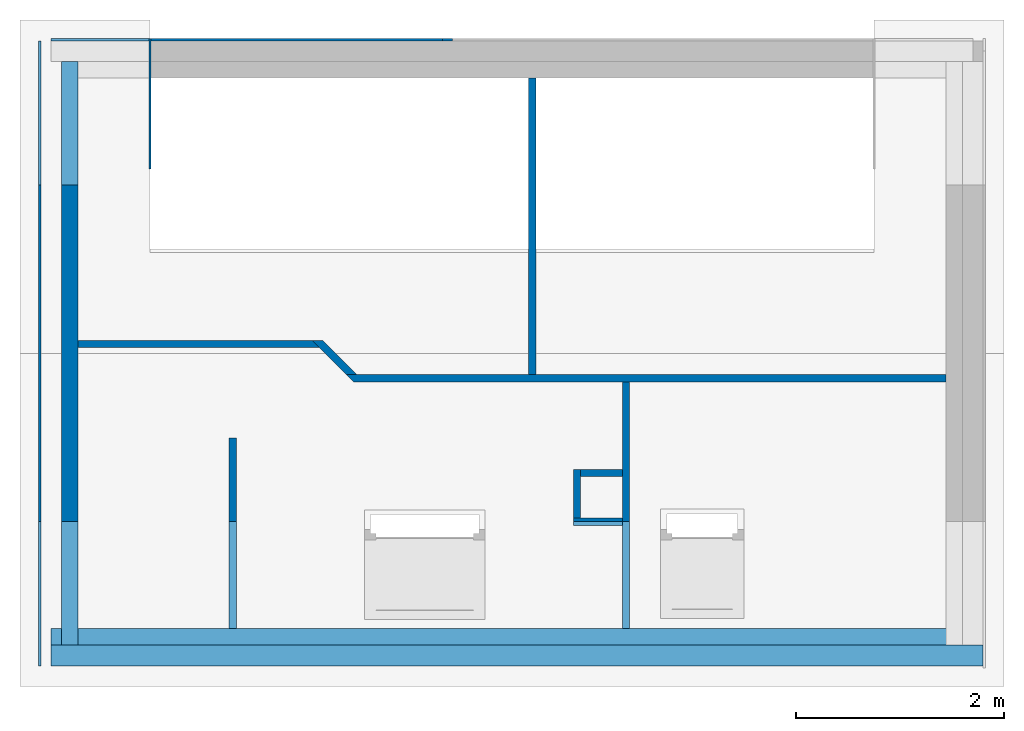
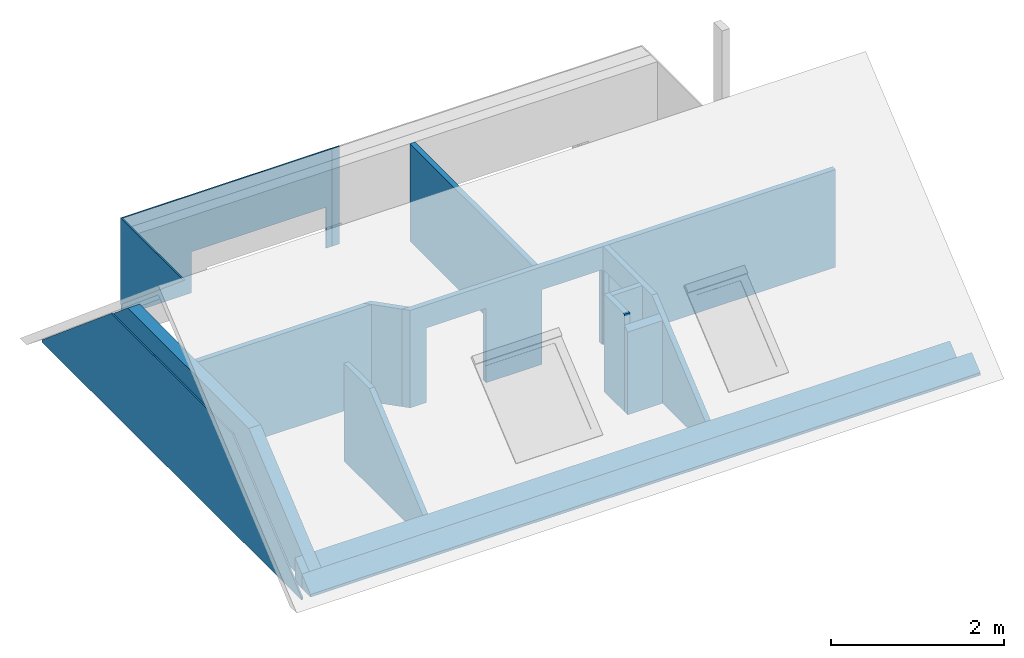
# One storey, part 1 of 5: 16 walls, 7 openings.
"""IFC2X3 building model written with IfcOpenShell, lengths in centimetres."""

from ifc_helpers import new_model, entity, si_unit, converted_unit, derived_unit, direction, frame, frame_2d, origin, place, context, subcontext, project, spatial, polyline, rectangle, outline, extrude, clip, halfspace, bounded_halfspace, faceted_brep, material, layer, layer_set, layer_usage, type_object, element, save


model = new_model("IFC2X3")

# Units and contexts
model_context = context("Model", 3, precision=0.001, world=origin(), true_north=direction((6.12303176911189e-17, 1.0)))
body_context = subcontext(model_context, "Body", "Model", "MODEL_VIEW")
ifc_project = project(units=[si_unit("LENGTHUNIT", "METRE", prefix="CENTI"), si_unit("AREAUNIT", "SQUARE_METRE"), si_unit("VOLUMEUNIT", "CUBIC_METRE"), converted_unit("PLANEANGLEUNIT", "DEGREE", entity("IfcRatioMeasure", 0.0174532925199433), si_unit("PLANEANGLEUNIT", "RADIAN"), dimensions=[0, 0, 0, 0, 0, 0, 0]), si_unit("MASSUNIT", "GRAM", prefix="KILO"), derived_unit("MASSDENSITYUNIT", [(si_unit("MASSUNIT", "GRAM", prefix="KILO"), 1), (si_unit("LENGTHUNIT", "METRE"), -3)]), derived_unit("MOMENTOFINERTIAUNIT", [(si_unit("LENGTHUNIT", "METRE"), 4)]), si_unit("TIMEUNIT", "SECOND"), si_unit("FREQUENCYUNIT", "HERTZ"), si_unit("THERMODYNAMICTEMPERATUREUNIT", "DEGREE_CELSIUS"), derived_unit("THERMALTRANSMITTANCEUNIT", [(si_unit("MASSUNIT", "GRAM", prefix="KILO"), 1), (si_unit("THERMODYNAMICTEMPERATUREUNIT", "KELVIN"), -1), (si_unit("TIMEUNIT", "SECOND"), -3)]), derived_unit("VOLUMETRICFLOWRATEUNIT", [(si_unit("LENGTHUNIT", "METRE"), 3), (si_unit("TIMEUNIT", "SECOND"), -1)]), si_unit("ELECTRICCURRENTUNIT", "AMPERE"), si_unit("ELECTRICVOLTAGEUNIT", "VOLT"), si_unit("POWERUNIT", "WATT"), si_unit("FORCEUNIT", "NEWTON", prefix="KILO"), si_unit("ILLUMINANCEUNIT", "LUX"), si_unit("LUMINOUSFLUXUNIT", "LUMEN"), si_unit("LUMINOUSINTENSITYUNIT", "CANDELA"), derived_unit("USERDEFINED", [(si_unit("MASSUNIT", "GRAM", prefix="KILO"), -1), (si_unit("LENGTHUNIT", "METRE"), -2), (si_unit("TIMEUNIT", "SECOND"), 3), (si_unit("LUMINOUSFLUXUNIT", "LUMEN"), 1)]), derived_unit("LINEARVELOCITYUNIT", [(si_unit("LENGTHUNIT", "METRE"), 1), (si_unit("TIMEUNIT", "SECOND"), -1)]), si_unit("PRESSUREUNIT", "PASCAL"), derived_unit("USERDEFINED", [(si_unit("LENGTHUNIT", "METRE"), -2), (si_unit("MASSUNIT", "GRAM", prefix="KILO"), 1), (si_unit("TIMEUNIT", "SECOND"), -2)]), derived_unit("LINEARFORCEUNIT", [(si_unit("MASSUNIT", "GRAM", prefix="KILO"), 1), (si_unit("LENGTHUNIT", "METRE"), 1), (si_unit("TIMEUNIT", "SECOND"), -2), (si_unit("LENGTHUNIT", "METRE"), -1)]), derived_unit("PLANARFORCEUNIT", [(si_unit("MASSUNIT", "GRAM", prefix="KILO"), 1), (si_unit("LENGTHUNIT", "METRE"), 1), (si_unit("TIMEUNIT", "SECOND"), -2), (si_unit("LENGTHUNIT", "METRE"), -2)])], contexts=[model_context])

# Site, building, storey
site_placement = place(None, origin())
site = spatial("IfcSite", under=ifc_project, at=site_placement, Name="Surface", CompositionType="ELEMENT")
building_placement = place(site_placement, origin())
building = spatial("IfcBuilding", under=site, at=building_placement, CompositionType="ELEMENT")
storey_placement = place(building_placement, frame((0.0, 0.0, 365.0)))
storey = spatial("IfcBuildingStorey", under=building, at=storey_placement, Name="3.65_Sablière", CompositionType="ELEMENT", Elevation=365.0)

# Wall
ifc_material_1 = material(Name="Maçonnerie - Béton")
ifc_layer_1 = layer(ifc_material_1, 20.0)
ifc_layer_set_1 = layer_set([ifc_layer_1], Name="Mur de base:Mur 20")
ifc_layer_usage_1 = layer_usage(ifc_layer_set_1, "AXIS2", "NEGATIVE", 10.0)
wall_type_1 = type_object("IfcWallType", Name="Mur de base:Mur 20", PredefinedType="STANDARD", material=ifc_layer_set_1)
wall_1_placement = place(storey_placement, frame((-882.177260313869, 130.99231712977, 0.0), z_axis=(0.0, 0.0, 1.0), x_axis=(-1.0, 0.0, 0.0)))
element("IfcWallStandardCase", 1, at=wall_1_placement, inside=storey, type_object=wall_type_1, material=ifc_layer_usage_1, Name="Mur de base:Mur 20", ObjectType="Mur de base:Mur 20", context=body_context, shape_type="Clipping", body=[
    clip(clip(extrude(rectangle(XDim=896.000000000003, YDim=20.0, at=frame_2d((448.000000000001, 7.99360577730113e-15), x_axis=(-1.0, 0.0))), origin(), (0.0, 0.0, 1.0), 20.5139852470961), bounded_halfspace(frame((0.0, -10.0, 20.5139852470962), z_axis=(0.0, 0.642787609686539, 0.766044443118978), x_axis=(-1.0, 0.0, 0.0)), False, frame((0.0, -10.0, 20.5139852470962)), polyline([(0.0, 0.0), (20.0, 0.0), (896.0, 0.0), (896.0, 20.0), (788.887301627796, 20.0), (756.887301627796, 20.0), (0.0, 20.0), (0.0, 0.0)]))), halfspace(frame((0.0, 0.0, -108.0)), True)),
])

# Wall, openings
ifc_material_2 = material(Name="Maçonnerie - Enduit")
ifc_layer_2 = layer(ifc_material_2, 2.0)
ifc_layer_set_2 = layer_set([ifc_layer_2], Name="Mur de base:Enduit 2")
ifc_layer_usage_2 = layer_usage(ifc_layer_set_2, "AXIS2", "POSITIVE", -1.0)
wall_type_2 = type_object("IfcWallType", Name="Mur de base:Enduit 2", PredefinedType="STANDARD", material=ifc_layer_set_2)
wall_2_placement = place(storey_placement, frame((-1392.17726031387, 722.992317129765, 0.0), z_axis=(0.0, 0.0, 1.0), x_axis=(-1.0, 0.0, 0.0)))
wall_2 = element("IfcWallStandardCase", 2, at=wall_2_placement, inside=storey, type_object=wall_type_2, material=ifc_layer_usage_2, Name="Mur de base:Enduit 2", ObjectType="Mur de base:Enduit 2", context=body_context, shape_type="Clipping", body=[
    clip(clip(extrude(rectangle(XDim=10.0000000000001, YDim=1.99999999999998, at=frame_2d((5.00000000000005, 2.70339306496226e-14), x_axis=(-1.0, 0.0))), origin(), (0.0, 0.0, 1.0), 138.0), bounded_halfspace(frame((10.0, -1.0, 202.0), z_axis=(-1.0, 0.0, 0.0), x_axis=(0.0, -1.0, 0.0)), True, frame((10.0, -1.0, 202.0), z_axis=(-1.0, 0.0, 0.0), x_axis=(0.0, -1.0, 0.0)), polyline([(0.0, 0.0), (-1.96639664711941, 0.0), (-1.96639664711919, -10.0244189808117), (-2.0, -10.0267687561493), (-2.0, -285.0), (0.0, -285.0), (0.0, 0.0)]))), halfspace(frame((0.0, 0.0, -83.0)), True)),
])
opening_1_placement = place(wall_2_placement, frame((203.0, 61.0, -28.9654202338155)))
element("IfcOpeningElement", 3, at=opening_1_placement, cuts=wall_2, Name="Mur de base:Enduit 2", ObjectType="Opening", context=body_context, shape_type="Brep", body=[
    faceted_brep([(-5.0, -48.0, 6.96542023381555), (-5.0, -50.0, 6.96542023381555), (-5.0, -50.0, 86.9654202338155), (-5.0, -100.0, 86.9654202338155), (-5.0, -100.0, 0.0), (-5.0, -48.0, 5.46542023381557), (-185.0, 0.0, 6.96542023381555), (-185.0, -40.0, 6.96542023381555), (-185.0, -40.0, 86.9654202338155), (-185.0, 0.0, 86.9654202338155), (-5.0, 0.0, 6.96542023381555), (-5.0, -40.0, 6.96542023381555), (0.0, -40.0, 6.96542023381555), (0.0, -47.0, 6.96542023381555), (-4.0, -47.0, 6.96542023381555), (-4.0, -50.0, 6.96542023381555), (-185.0, -48.0, 6.96542023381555), (-185.0, -50.0, 6.96542023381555), (-186.0, -50.0, 6.96542023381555), (-186.0, -47.0, 6.96542023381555), (-190.0, -47.0, 6.96542023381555), (-190.0, -40.0, 6.96542023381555), (-5.0, 0.0, 86.9654202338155), (-185.0, -50.0, 86.9654202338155), (-185.0, -100.0, 86.9654202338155), (-185.0, -100.0, 0.0), (-185.0, -48.0, 5.46542023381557), (0.0, -40.0, 91.9654202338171), (0.0, -47.0, 91.9654202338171), (-190.0, -47.0, 91.9654202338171), (-186.0, -47.0, 87.9654202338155), (-4.0, -47.0, 87.9654202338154), (-4.0, -50.0, 87.9654202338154), (-186.0, -50.0, 87.9654202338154), (-5.0, -40.0, 86.9654202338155), (-190.0, -40.0, 91.9654202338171)], [[[0, 1, 2, 3, 4, 5]], [[6, 7, 8, 9]], [[10, 11, 12, 13, 14, 15, 1, 0, 16, 17, 18, 19, 20, 21, 7, 6]], [[10, 6, 9, 22]], [[3, 2, 23, 24]], [[3, 24, 25, 4]], [[4, 25, 26, 5]], [[5, 26, 16, 0]], [[12, 27, 28, 13]], [[13, 28, 29, 20, 19, 30, 31, 14]], [[14, 31, 32, 15]], [[15, 32, 33, 18, 17, 23, 2, 1]], [[11, 34, 8, 7, 21, 35, 27, 12]], [[27, 35, 29, 28]], [[30, 33, 32, 31]], [[29, 35, 21, 20]], [[19, 18, 33, 30]], [[9, 8, 34, 22]], [[24, 23, 17, 16, 26, 25]], [[22, 34, 11, 10]]]),
])
opening_2_placement = place(wall_2_placement, frame((-127.0, 61.0, -28.9654202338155)))
element("IfcOpeningElement", 4, at=opening_2_placement, cuts=wall_2, Name="Mur de base:Enduit 2", ObjectType="Opening", context=body_context, shape_type="Brep", body=[
    faceted_brep([(-5.0, -48.0, 6.96542023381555), (-5.0, -50.0, 6.96542023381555), (-5.0, -50.0, 86.9654202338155), (-5.0, -100.0, 86.9654202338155), (-5.0, -100.0, 0.0), (-5.0, -48.0, 5.46542023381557), (-185.0, 0.0, 6.96542023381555), (-185.0, -40.0, 6.96542023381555), (-185.0, -40.0, 86.9654202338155), (-185.0, 0.0, 86.9654202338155), (-5.0, 0.0, 6.96542023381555), (-5.0, -40.0, 6.96542023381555), (0.0, -40.0, 6.96542023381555), (0.0, -47.0, 6.96542023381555), (-4.0, -47.0, 6.96542023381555), (-4.0, -50.0, 6.96542023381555), (-185.0, -48.0, 6.96542023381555), (-185.0, -50.0, 6.96542023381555), (-186.0, -50.0, 6.96542023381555), (-186.0, -47.0, 6.96542023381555), (-190.0, -47.0, 6.96542023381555), (-190.0, -40.0, 6.96542023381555), (-5.0, 0.0, 86.9654202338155), (-185.0, -50.0, 86.9654202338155), (-185.0, -100.0, 86.9654202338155), (-185.0, -100.0, 0.0), (-185.0, -48.0, 5.46542023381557), (0.0, -40.0, 91.9654202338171), (0.0, -47.0, 91.9654202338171), (-190.0, -47.0, 91.9654202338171), (-186.0, -47.0, 87.9654202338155), (-4.0, -47.0, 87.9654202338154), (-4.0, -50.0, 87.9654202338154), (-186.0, -50.0, 87.9654202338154), (-5.0, -40.0, 86.9654202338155), (-190.0, -40.0, 91.9654202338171)], [[[0, 1, 2, 3, 4, 5]], [[6, 7, 8, 9]], [[10, 11, 12, 13, 14, 15, 1, 0, 16, 17, 18, 19, 20, 21, 7, 6]], [[10, 6, 9, 22]], [[3, 2, 23, 24]], [[3, 24, 25, 4]], [[4, 25, 26, 5]], [[5, 26, 16, 0]], [[12, 27, 28, 13]], [[13, 28, 29, 20, 19, 30, 31, 14]], [[14, 31, 32, 15]], [[15, 32, 33, 18, 17, 23, 2, 1]], [[11, 34, 8, 7, 21, 35, 27, 12]], [[27, 35, 29, 28]], [[30, 33, 32, 31]], [[29, 35, 21, 20]], [[19, 18, 33, 30]], [[9, 8, 34, 22]], [[24, 23, 17, 16, 26, 25]], [[22, 34, 11, 10]]]),
])

ifc_layer_usage_3 = layer_usage(ifc_layer_set_2, "AXIS2", "NEGATIVE", 1.0)
wall_3_placement = place(storey_placement, frame((-1778.17726031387, 722.992317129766, 0.0)))
wall_3 = element("IfcWallStandardCase", 5, at=wall_3_placement, inside=storey, type_object=wall_type_2, material=ifc_layer_usage_3, Name="Mur de base:Enduit 2", ObjectType="Mur de base:Enduit 2", context=body_context, shape_type="Clipping", body=[
    clip(clip(extrude(rectangle(XDim=376.0, YDim=1.99999999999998, at=frame_2d((188.0, 3.3362201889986e-14), x_axis=(-1.0, 0.0))), origin(), (0.0, 0.0, 1.0), 138.0), bounded_halfspace(frame((0.0, -1.0, 3.73199262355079), z_axis=(0.0, 0.642787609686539, 0.766044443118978), x_axis=(-1.0, 0.0, 0.0)), False, frame((0.0, -1.0, 3.73199262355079)), polyline([(0.0, 0.0), (95.0, 0.0), (95.0, 2.0), (0.0, 2.0), (0.0, 0.0)]))), halfspace(frame((0.0, 0.0, -108.0)), True)),
])
opening_3_placement = place(wall_3_placement, frame((183.0, -61.0, -28.9654202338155)))
element("IfcOpeningElement", 6, at=opening_3_placement, cuts=wall_3, Name="Mur de base:Enduit 2", ObjectType="Opening", context=body_context, shape_type="Brep", body=[
    faceted_brep([(5.0, 48.0, 6.96542023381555), (5.0, 50.0, 6.96542023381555), (5.0, 50.0, 86.9654202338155), (5.0, 100.0, 86.9654202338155), (5.0, 100.0, 0.0), (5.0, 48.0, 5.46542023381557), (185.0, 0.0, 6.96542023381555), (185.0, 40.0, 6.96542023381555), (185.0, 40.0, 86.9654202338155), (185.0, 0.0, 86.9654202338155), (5.0, 0.0, 6.96542023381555), (5.0, 40.0, 6.96542023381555), (0.0, 40.0, 6.96542023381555), (0.0, 47.0, 6.96542023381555), (4.0, 47.0, 6.96542023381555), (4.0, 50.0, 6.96542023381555), (185.0, 48.0, 6.96542023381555), (185.0, 50.0, 6.96542023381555), (186.0, 50.0, 6.96542023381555), (186.0, 47.0, 6.96542023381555), (190.0, 47.0, 6.96542023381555), (190.0, 40.0, 6.96542023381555), (5.0, 0.0, 86.9654202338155), (185.0, 50.0, 86.9654202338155), (185.0, 100.0, 86.9654202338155), (185.0, 100.0, 0.0), (185.0, 48.0, 5.46542023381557), (0.0, 40.0, 91.9654202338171), (0.0, 47.0, 91.9654202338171), (190.0, 47.0, 91.9654202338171), (186.0, 47.0, 87.9654202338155), (4.0, 47.0, 87.9654202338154), (4.0, 50.0, 87.9654202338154), (186.0, 50.0, 87.9654202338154), (5.0, 40.0, 86.9654202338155), (190.0, 40.0, 91.9654202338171)], [[[0, 1, 2, 3, 4, 5]], [[6, 7, 8, 9]], [[10, 11, 12, 13, 14, 15, 1, 0, 16, 17, 18, 19, 20, 21, 7, 6]], [[10, 6, 9, 22]], [[3, 2, 23, 24]], [[3, 24, 25, 4]], [[4, 25, 26, 5]], [[5, 26, 16, 0]], [[12, 27, 28, 13]], [[13, 28, 29, 20, 19, 30, 31, 14]], [[14, 31, 32, 15]], [[15, 32, 33, 18, 17, 23, 2, 1]], [[11, 34, 8, 7, 21, 35, 27, 12]], [[27, 35, 29, 28]], [[30, 33, 32, 31]], [[29, 35, 21, 20]], [[19, 18, 33, 30]], [[9, 8, 34, 22]], [[24, 23, 17, 16, 26, 25]], [[22, 34, 11, 10]]]),
])
opening_4_placement = place(wall_3_placement, frame((513.0, -61.0, -28.9654202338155)))
element("IfcOpeningElement", 7, at=opening_4_placement, cuts=wall_3, Name="Mur de base:Enduit 2", ObjectType="Opening", context=body_context, shape_type="Brep", body=[
    faceted_brep([(5.0, 48.0, 6.96542023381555), (5.0, 50.0, 6.96542023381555), (5.0, 50.0, 86.9654202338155), (5.0, 100.0, 86.9654202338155), (5.0, 100.0, 0.0), (5.0, 48.0, 5.46542023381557), (185.0, 0.0, 6.96542023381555), (185.0, 40.0, 6.96542023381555), (185.0, 40.0, 86.9654202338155), (185.0, 0.0, 86.9654202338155), (5.0, 0.0, 6.96542023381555), (5.0, 40.0, 6.96542023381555), (0.0, 40.0, 6.96542023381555), (0.0, 47.0, 6.96542023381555), (4.0, 47.0, 6.96542023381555), (4.0, 50.0, 6.96542023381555), (185.0, 48.0, 6.96542023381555), (185.0, 50.0, 6.96542023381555), (186.0, 50.0, 6.96542023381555), (186.0, 47.0, 6.96542023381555), (190.0, 47.0, 6.96542023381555), (190.0, 40.0, 6.96542023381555), (5.0, 0.0, 86.9654202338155), (185.0, 50.0, 86.9654202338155), (185.0, 100.0, 86.9654202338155), (185.0, 100.0, 0.0), (185.0, 48.0, 5.46542023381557), (0.0, 40.0, 91.9654202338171), (0.0, 47.0, 91.9654202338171), (190.0, 47.0, 91.9654202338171), (186.0, 47.0, 87.9654202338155), (4.0, 47.0, 87.9654202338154), (4.0, 50.0, 87.9654202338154), (186.0, 50.0, 87.9654202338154), (5.0, 40.0, 86.9654202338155), (190.0, 40.0, 91.9654202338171)], [[[0, 1, 2, 3, 4, 5]], [[6, 7, 8, 9]], [[10, 11, 12, 13, 14, 15, 1, 0, 16, 17, 18, 19, 20, 21, 7, 6]], [[10, 6, 9, 22]], [[3, 2, 23, 24]], [[3, 24, 25, 4]], [[4, 25, 26, 5]], [[5, 26, 16, 0]], [[12, 27, 28, 13]], [[13, 28, 29, 20, 19, 30, 31, 14]], [[14, 31, 32, 15]], [[15, 32, 33, 18, 17, 23, 2, 1]], [[11, 34, 8, 7, 21, 35, 27, 12]], [[27, 35, 29, 28]], [[30, 33, 32, 31]], [[29, 35, 21, 20]], [[19, 18, 33, 30]], [[9, 8, 34, 22]], [[24, 23, 17, 16, 26, 25]], [[22, 34, 11, 10]]]),
])

# Walls
ifc_layer_usage_4 = layer_usage(ifc_layer_set_2, "AXIS2", "POSITIVE", -1.0)
wall_4_placement = place(storey_placement, frame((-1789.17726031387, 721.992317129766, 0.0), z_axis=(0.0, 0.0, 1.0), x_axis=(0.0, -1.0, 0.0)))
element("IfcWallStandardCase", 8, at=wall_4_placement, inside=storey, type_object=wall_type_2, material=ifc_layer_usage_4, Name="Mur de base:Enduit 2", ObjectType="Mur de base:Enduit 2", context=body_context, shape_type="Clipping", body=[
    clip(clip(clip(extrude(rectangle(XDim=601.0, YDim=1.99999999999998, at=frame_2d((300.5, -3.38618022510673e-15), x_axis=(-1.0, 0.0))), origin(), (0.0, 0.0, 1.0), 138.0), bounded_halfspace(frame((0.0, -1.0, 3.73199262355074), z_axis=(-0.642787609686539, 0.0, 0.766044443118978), x_axis=(0.0, -1.0, 0.0)), False, frame((0.0, -1.0, 3.73199262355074)), polyline([(0.0, 0.0), (300.499999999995, 0.0), (300.499999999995, 2.0), (0.0, 2.0), (0.0, 0.0)]))), bounded_halfspace(frame((300.499999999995, -1.0, 255.881431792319), z_axis=(0.642787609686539, 0.0, 0.766044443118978), x_axis=(0.0, 1.0, 0.0)), False, frame((300.499999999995, -1.0, 255.881431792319)), polyline([(0.0, 0.0), (300.500000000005, 0.0), (300.500000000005, 2.0), (0.0, 2.0), (0.0, 0.0)]))), halfspace(frame((0.0, 0.0, -83.0)), True)),
])
ifc_material_3 = material(Name="Zinc")
ifc_layer_3 = layer(ifc_material_3, 2.0)
ifc_layer_set_3 = layer_set([ifc_layer_3], Name="Mur de base:Bardage zinc")
ifc_layer_usage_5 = layer_usage(ifc_layer_set_3, "AXIS2", "NEGATIVE", 1.0)
wall_type_3 = type_object("IfcWallType", Name="Mur de base:Bardage zinc", PredefinedType="STANDARD", material=ifc_layer_set_3)
wall_5_placement = place(storey_placement, frame((-1683.17726031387, 723.99231712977, 15.1078662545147), z_axis=(0.0, 0.0, 1.0), x_axis=(0.0, -1.0, 0.0)))
element("IfcWallStandardCase", 9, at=wall_5_placement, inside=storey, type_object=wall_type_3, material=ifc_layer_usage_5, Name="Mur de base:Bardage zinc", ObjectType="Mur de base:Bardage zinc", context=body_context, shape_type="Clipping", body=[
    clip(clip(extrude(rectangle(XDim=205.747191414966, YDim=1.99999999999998, at=frame_2d((102.873595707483, 0.0), x_axis=(-1.0, 0.0))), origin(), (0.0, 0.0, 1.0), 122.892133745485), halfspace(frame((205.747191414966, -1.0, 172.64239243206), z_axis=(0.642787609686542, 0.0, -0.766044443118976), x_axis=(0.0, 1.0, 0.0)), False)), halfspace(frame((0.0, 0.0, -15.1078662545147)), True)),
])
ifc_material_4 = material(Name="Isolant rigide")
ifc_layer_4 = layer(ifc_material_4, 16.0)
ifc_layer_set_4 = layer_set([ifc_layer_4], Name="Mur de base:Doublage 16")
ifc_layer_usage_6 = layer_usage(ifc_layer_set_4, "AXIS2", "POSITIVE", -8.0)
wall_type_4 = type_object("IfcWallType", Name="Mur de base:Doublage 16", PredefinedType="STANDARD", material=ifc_layer_set_4)
wall_6_placement = place(storey_placement, frame((-902.177260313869, 148.99231712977, 0.0), z_axis=(0.0, 0.0, 1.0), x_axis=(-1.0, 0.0, 0.0)))
element("IfcWallStandardCase", 10, at=wall_6_placement, inside=storey, type_object=wall_type_4, material=ifc_layer_usage_6, Name="Mur de base:Doublage 16", ObjectType="Mur de base:Doublage 16", context=body_context, shape_type="Clipping", body=[
    clip(clip(extrude(rectangle(XDim=876.000000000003, YDim=16.0, at=frame_2d((438.000000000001, 2.66453525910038e-15), x_axis=(-1.0, 0.0))), origin(), (0.0, 0.0, 1.0), 33.9395793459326), bounded_halfspace(frame((0.0, -8.0, 33.9395793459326), z_axis=(0.0, 0.642787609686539, 0.766044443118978), x_axis=(-1.0, 0.0, 0.0)), False, frame((0.0, -8.0, 33.9395793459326)), polyline([(0.0, 0.0), (320.0, 0.0), (327.0, 0.0), (698.0, 0.0), (705.0, 0.0), (876.0, 0.0), (876.0, 16.0), (0.0, 16.0), (0.0, 0.0)]))), halfspace(frame((0.0, 0.0, -102.0)), True)),
])
ifc_layer_usage_7 = layer_usage(ifc_layer_set_4, "AXIS2", "POSITIVE", -8.0)
wall_7_placement = place(storey_placement, frame((-1760.17726031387, 140.992317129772, 0.0), z_axis=(0.0, 0.0, 1.0), x_axis=(0.0, 1.0, 0.0)))
element("IfcWallStandardCase", 11, at=wall_7_placement, inside=storey, type_object=wall_type_4, material=ifc_layer_usage_7, Name="Mur de base:Doublage 16", ObjectType="Mur de base:Doublage 16", context=body_context, shape_type="Clipping", body=[
    clip(clip(clip(extrude(rectangle(XDim=561.0, YDim=15.9999999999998, at=frame_2d((280.5, 0.0), x_axis=(-1.0, 0.0))), origin(), (0.0, 0.0, 1.0), 138.0), bounded_halfspace(frame((280.499999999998, -8.0, 255.881431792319), z_axis=(0.642787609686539, 0.0, 0.766044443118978), x_axis=(0.0, 1.0, 0.0)), False, frame((280.499999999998, -8.0, 255.881431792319)), polyline([(0.0, 0.0), (264.500000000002, 0.0), (280.500000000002, 0.0), (280.500000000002, 16.0), (0.0, 16.0), (0.0, 0.0)]))), bounded_halfspace(frame((0.0, -8.0, 20.5139852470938), z_axis=(-0.642787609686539, 0.0, 0.766044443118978), x_axis=(0.0, -1.0, 0.0)), False, frame((0.0, -8.0, 20.5139852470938)), polyline([(0.0, 0.0), (280.499999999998, 0.0), (280.499999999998, 16.0), (0.0, 16.0), (0.0, 0.0)]))), halfspace(frame((0.0, 0.0, -102.0)), True)),
])

# Wall, openings
ifc_material_5 = material(Name="Mur par défaut")
ifc_layer_5 = layer(ifc_material_5, 7.0)
ifc_layer_set_5 = layer_set([ifc_layer_5], Name="Mur de base:Cloison 7cm")
ifc_layer_usage_8 = layer_usage(ifc_layer_set_5, "AXIS2", "POSITIVE", -3.5)
wall_type_5 = type_object("IfcWallType", Name="Mur de base:Cloison 7cm", PredefinedType="STANDARD", material=ifc_layer_set_5)
wall_8_placement = place(storey_placement, frame((-918.177260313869, 397.49231712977, 0.0), z_axis=(0.0, 0.0, 1.0), x_axis=(-1.0, 0.0, 0.0)))
wall_8 = element("IfcWallStandardCase", 12, at=wall_8_placement, inside=storey, type_object=wall_type_5, material=ifc_layer_usage_8, Name="Mur de base:Cloison 7cm", ObjectType="Mur de base:Cloison 7cm", context=body_context, shape_type="Clipping", body=[
    clip(extrude(outline(polyline([(0.0, -3.49999999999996), (394.0, -3.49999999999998), (401.0, -3.49999999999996), (566.100505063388, -3.49999999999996), (576.0, -3.49999999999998), (569.0, 3.50000000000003), (0.0, 3.50000000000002), (0.0, -3.49999999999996)])), origin(), (0.0, 0.0, 1.0), 138.0), halfspace(frame((0.0, 0.0, -102.0)), True)),
])
opening_5_placement = place(wall_8_placement, frame((-918.177260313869, 397.49231712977, -102.0), z_axis=(0.0, 0.0, 1.0), x_axis=(-1.0, 0.0, 0.0)))
element("IfcOpeningElement", 13, at=opening_5_placement, cuts=wall_8, Name="Mur de base:Cloison 7cm", ObjectType="Opening", context=body_context, shape_type="SweptSolid", body=[
    extrude(rectangle(XDim=207.5, YDim=80.0, at=frame_2d((-2.8421709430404e-14, 0.0), x_axis=(1.0, 0.0))), frame((-1425.67726031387, 553.392317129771, 103.75), z_axis=(0.0, -1.0, 0.0), x_axis=(0.0, 0.0, 1.0)), (0.0, 0.0, 1.0), 304.8),
])
opening_6_placement = place(wall_8_placement, frame((-918.177260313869, 397.49231712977, -102.0), z_axis=(0.0, 0.0, 1.0), x_axis=(-1.0, 0.0, 0.0)))
element("IfcOpeningElement", 14, at=opening_6_placement, cuts=wall_8, Name="Mur de base:Cloison 7cm", ObjectType="Opening", context=body_context, shape_type="SweptSolid", body=[
    extrude(rectangle(XDim=207.5, YDim=80.0, at=frame_2d((0.0, -2.8421709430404e-14), x_axis=(0.0, 1.0))), frame((-1270.67726031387, 553.392317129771, 103.75), z_axis=(0.0, -1.0, 0.0), x_axis=(1.0, 0.0, 0.0)), (0.0, 0.0, 1.0), 304.8),
])

# Walls
ifc_layer_usage_9 = layer_usage(ifc_layer_set_5, "AXIS2", "POSITIVE", -3.5)
wall_9_placement = place(storey_placement, frame((-1486.75263911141, 398.517443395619, 0.0), z_axis=(0.0, 0.0, 1.0), x_axis=(-0.707106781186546, 0.707106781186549, 0.0)))
element("IfcWallStandardCase", 15, at=wall_9_placement, inside=storey, type_object=wall_type_5, material=ifc_layer_usage_9, Name="Mur de base:Cloison 7cm", ObjectType="Mur de base:Cloison 7cm", context=body_context, shape_type="Clipping", body=[
    clip(extrude(outline(polyline([(46.6690475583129, -3.5), (53.6690475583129, 3.50000000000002), (43.7695526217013, 3.50000000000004), (7.0, 3.50000000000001), (0.0, -3.49999999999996), (46.6690475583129, -3.5)])), origin(), (0.0, 0.0, 1.0), 138.0), halfspace(frame((0.0, 0.0, -102.0)), True)),
])
ifc_layer_usage_10 = layer_usage(ifc_layer_set_5, "AXIS2", "POSITIVE", -3.5)
wall_10_placement = place(storey_placement, frame((-1520.17726031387, 430.492317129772, 0.0), z_axis=(0.0, 0.0, 1.0), x_axis=(-1.0, 0.0, 0.0)))
element("IfcWallStandardCase", 16, at=wall_10_placement, inside=storey, type_object=wall_type_5, material=ifc_layer_usage_10, Name="Mur de base:Cloison 7cm", ObjectType="Mur de base:Cloison 7cm", context=body_context, shape_type="Clipping", body=[
    clip(extrude(outline(polyline([(232.0, -3.49999999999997), (232.0, 3.50000000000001), (0.0, 3.50000000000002), (7.0, -3.49999999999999), (232.0, -3.49999999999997)])), origin(), (0.0, 0.0, 1.0), 138.0), halfspace(frame((0.0, 0.0, -102.0)), True)),
])
ifc_layer_usage_11 = layer_usage(ifc_layer_set_5, "AXIS2", "POSITIVE", -3.5)
wall_11_placement = place(storey_placement, frame((-1315.67726031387, 685.992317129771, 0.0), z_axis=(0.0, 0.0, 1.0), x_axis=(0.0, -1.0, 0.0)))
element("IfcWallStandardCase", 17, at=wall_11_placement, inside=storey, type_object=wall_type_5, material=ifc_layer_usage_11, Name="Mur de base:Cloison 7cm", ObjectType="Mur de base:Cloison 7cm", context=body_context, shape_type="Clipping", body=[
    clip(extrude(rectangle(XDim=285.0, YDim=7.00000000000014, at=frame_2d((142.5, 0.0), x_axis=(-1.0, 0.0))), origin(), (0.0, 0.0, 1.0), 138.0), halfspace(frame((0.0, 0.0, -102.0)), True)),
])

# Wall, opening
ifc_layer_usage_12 = layer_usage(ifc_layer_set_5, "AXIS2", "POSITIVE", -3.5)
wall_12_placement = place(storey_placement, frame((-1225.67726031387, 393.992317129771, 0.0), z_axis=(0.0, 0.0, 1.0), x_axis=(0.0, -1.0, 0.0)))
wall_12 = element("IfcWallStandardCase", 18, at=wall_12_placement, inside=storey, type_object=wall_type_5, material=ifc_layer_usage_12, Name="Mur de base:Cloison 7cm", ObjectType="Mur de base:Cloison 7cm", context=body_context, shape_type="Clipping", body=[
    clip(clip(extrude(rectangle(XDim=237.0, YDim=7.00000000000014, at=frame_2d((118.5, 0.0), x_axis=(-1.0, 0.0))), origin(), (0.0, 0.0, 1.0), 138.0), bounded_halfspace(frame((0.0, -3.49999999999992, 232.806191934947), z_axis=(0.642787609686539, 0.0, 0.766044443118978), x_axis=(0.0, 1.0, 0.0)), False, frame((0.0, -3.49999999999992, 232.806191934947)), polyline([(0.0, 0.0), (131.0, 0.0), (138.0, 0.0), (237.0, 0.0), (237.0, 7.0), (0.0, 7.0), (0.0, 0.0)]))), halfspace(frame((0.0, 0.0, -102.0)), True)),
])
opening_7_placement = place(wall_12_placement, frame((393.992317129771, 1225.67726031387, -102.0), z_axis=(0.0, 0.0, 1.0), x_axis=(0.0, 1.0, 0.0)))
element("IfcOpeningElement", 19, at=opening_7_placement, cuts=wall_12, Name="Mur de base:Cloison 7cm", ObjectType="Opening", context=body_context, shape_type="SweptSolid", body=[
    extrude(rectangle(XDim=207.5, YDim=79.9999999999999, at=frame_2d((-2.8421709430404e-14, 2.48689957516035e-14), x_axis=(1.0, 0.0))), frame((-1374.57726031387, 352.49231712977, 103.75), z_axis=(1.0, 0.0, 0.0), x_axis=(0.0, 0.0, 1.0)), (0.0, 0.0, 1.0), 304.8),
])

# Walls
ifc_layer_usage_13 = layer_usage(ifc_layer_set_5, "AXIS2", "NEGATIVE", 3.5)
wall_13_placement = place(storey_placement, frame((-1229.17726031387, 259.49231712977, 0.0), z_axis=(0.0, 0.0, 1.0), x_axis=(-1.0, 0.0, 0.0)))
element("IfcWallStandardCase", 20, at=wall_13_placement, inside=storey, type_object=wall_type_5, material=ifc_layer_usage_13, Name="Mur de base:Cloison 7cm", ObjectType="Mur de base:Cloison 7cm", context=body_context, shape_type="Clipping", body=[
    clip(clip(extrude(rectangle(XDim=46.9999999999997, YDim=7.00000000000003, at=frame_2d((23.4999999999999, 0.0), x_axis=(-1.0, 0.0))), origin(), (0.0, 0.0, 1.0), 122.884140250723), bounded_halfspace(frame((0.0, -3.49999999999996, 122.884140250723), z_axis=(0.0, 0.642787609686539, 0.766044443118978), x_axis=(-1.0, 0.0, 0.0)), False, frame((0.0, -3.49999999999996, 122.884140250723)), polyline([(0.0, 0.0), (47.0, 0.0), (47.0, 7.0), (0.0, 7.0), (0.0, 0.0)]))), halfspace(frame((0.0, 0.0, -102.0)), True)),
])
ifc_layer_usage_14 = layer_usage(ifc_layer_set_5, "AXIS2", "NEGATIVE", 3.5)
wall_14_placement = place(storey_placement, frame((-1272.67726031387, 262.99231712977, 0.0), z_axis=(0.0, 0.0, 1.0), x_axis=(0.0, 1.0, 0.0)))
element("IfcWallStandardCase", 21, at=wall_14_placement, inside=storey, type_object=wall_type_5, material=ifc_layer_usage_14, Name="Mur de base:Cloison 7cm", ObjectType="Mur de base:Cloison 7cm", context=body_context, shape_type="Clipping", body=[
    clip(extrude(rectangle(XDim=46.9999999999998, YDim=7.00000000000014, at=frame_2d((23.4999999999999, 0.0), x_axis=(-1.0, 0.0))), origin(), (0.0, 0.0, 1.0), 138.0), halfspace(frame((0.0, 0.0, -102.0)), True)),
])
ifc_layer_usage_15 = layer_usage(ifc_layer_set_5, "AXIS2", "NEGATIVE", 3.5)
wall_15_placement = place(storey_placement, frame((-1269.17726031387, 306.49231712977, 0.0)))
element("IfcWallStandardCase", 22, at=wall_15_placement, inside=storey, type_object=wall_type_5, material=ifc_layer_usage_15, Name="Mur de base:Cloison 7cm", ObjectType="Mur de base:Cloison 7cm", context=body_context, shape_type="Clipping", body=[
    clip(extrude(rectangle(XDim=39.9999999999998, YDim=7.00000000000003, at=frame_2d((19.9999999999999, -1.19904086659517e-14), x_axis=(-1.0, 0.0))), origin(), (0.0, 0.0, 1.0), 138.0), halfspace(frame((0.0, 0.0, -102.0)), True)),
])
ifc_layer_usage_16 = layer_usage(ifc_layer_set_5, "AXIS2", "NEGATIVE", 3.5)
wall_16_placement = place(storey_placement, frame((-1603.67726031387, 156.992317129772, 0.0), z_axis=(0.0, 0.0, 1.0), x_axis=(0.0, 1.0, 0.0)))
element("IfcWallStandardCase", 23, at=wall_16_placement, inside=storey, type_object=wall_type_5, material=ifc_layer_usage_16, Name="Mur de base:Cloison 7cm", ObjectType="Mur de base:Cloison 7cm", context=body_context, shape_type="Clipping", body=[
    clip(clip(extrude(rectangle(XDim=182.999999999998, YDim=7.00000000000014, at=frame_2d((91.4999999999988, 0.0), x_axis=(-1.0, 0.0))), origin(), (0.0, 0.0, 1.0), 138.0), bounded_halfspace(frame((0.0, -3.49999999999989, 33.9395793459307), z_axis=(-0.642787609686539, 0.0, 0.766044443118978), x_axis=(0.0, -1.0, 0.0)), False, frame((0.0, -3.49999999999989, 33.9395793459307)), polyline([(0.0, 0.0), (183.0, 0.0), (183.0, 7.0), (0.0, 7.0), (0.0, 0.0)]))), halfspace(frame((0.0, 0.0, -102.0)), True)),
])

save(model, "model.ifc")
